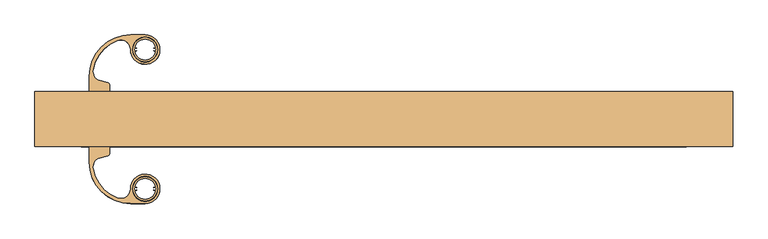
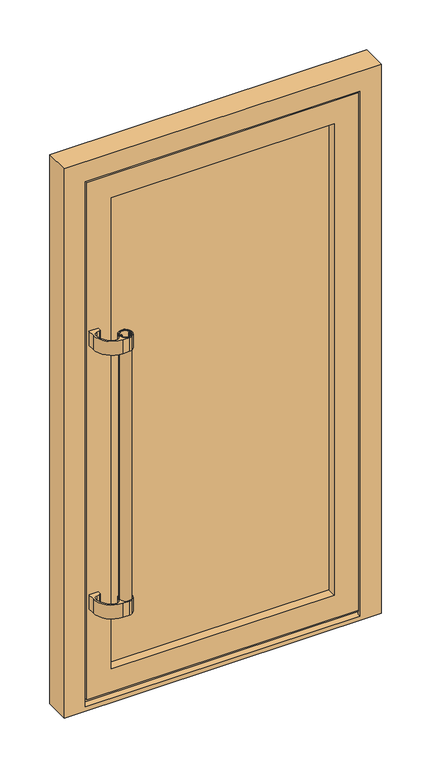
"""IFC4 building model written with IfcOpenShell, lengths in millimetres: door geometry, Jednokrilna vrata_ : Jednokrilna vrata_."""

from ifc_helpers import new_model, si_unit, point, frame, frame_2d, origin, place, context, project, spatial, polyline, circle_curve, trimmed, segment, composite_curve, outline, extrude, faceted_brep, source, transform, mapped, element, save
from ifc_brep_helpers import plane_surface, cylinder_surface, advanced_brep


def door_d72a60e1(model_context):
    return source(origin(), model_context, "Body", "SolidModel", [
        extrude(outline(composite_curve([segment(trimmed(circle_curve(frame_2d((-369.3582857, -90.4505492)), 19.0), [point((-388.3582857, -90.4505492))], [point((-350.3582857, -90.4505492))], False, "CARTESIAN"), True, "CONTINUOUS"), segment(trimmed(circle_curve(frame_2d((-369.3582857, -90.4505492)), 19.0), [point((-350.3582857, -90.4505492))], [point((-388.3582857, -90.4505492))], False, "CARTESIAN"), True, "CONTINUOUS")], self_intersect=False), holes=[composite_curve([segment(polyline([(-382.7222702, -91.5465647), (-381.575669, -91.5465647), (-381.575669, -92.517714)]), True, "CONTINUOUS"), segment(trimmed(circle_curve(frame_2d((-383.8182857, -90.4505492)), 3.05), [point((-381.575669, -92.517714))], [point((-383.8182857, -93.5005492))], False, "CARTESIAN"), True, "CONTINUOUS"), segment(polyline([(-383.8182857, -93.5005492), (-385.0648926, -93.5005492)]), True, "CONTINUOUS"), segment(trimmed(circle_curve(frame_2d((-369.3582857, -90.4505492)), 16.0), [point((-385.0648926, -93.5005492))], [point((-353.6516789, -93.5005492))], True, "CARTESIAN"), True, "CONTINUOUS"), segment(polyline([(-353.6516789, -93.5005492), (-354.8582857, -93.5005492)]), True, "CONTINUOUS"), segment(trimmed(circle_curve(frame_2d((-354.8582857, -90.4505492)), 3.05), [point((-354.8582857, -93.5005492))], [point((-357.1009025, -92.517714))], False, "CARTESIAN"), True, "CONTINUOUS"), segment(polyline([(-357.1009025, -92.517714), (-357.1009025, -91.5465647), (-355.9543013, -91.5465647)]), True, "CONTINUOUS"), segment(trimmed(circle_curve(frame_2d((-354.8582857, -90.4505492)), 1.55), [point((-355.9543013, -91.5465647))], [point((-355.9543013, -89.3545337))], True, "CARTESIAN"), True, "CONTINUOUS"), segment(polyline([(-355.9543013, -89.3545337), (-357.1009025, -89.3545337), (-357.1009025, -88.3833845)]), True, "CONTINUOUS"), segment(trimmed(circle_curve(frame_2d((-354.8582857, -90.4505492)), 3.05), [point((-357.1009025, -88.3833845))], [point((-354.8582857, -87.4005492))], False, "CARTESIAN"), True, "CONTINUOUS"), segment(polyline([(-354.8582857, -87.4005492), (-353.6516789, -87.4005492)]), True, "CONTINUOUS"), segment(trimmed(circle_curve(frame_2d((-369.3582857, -90.4505492)), 16.0), [point((-353.6516789, -87.4005492))], [point((-385.0648926, -87.4005492))], True, "CARTESIAN"), True, "CONTINUOUS"), segment(polyline([(-385.0648926, -87.4005492), (-383.8182857, -87.4005492)]), True, "CONTINUOUS"), segment(trimmed(circle_curve(frame_2d((-383.8182857, -90.4505492)), 3.05), [point((-383.8182857, -87.4005492))], [point((-381.575669, -88.3833845))], False, "CARTESIAN"), True, "CONTINUOUS"), segment(polyline([(-381.575669, -88.3833845), (-381.575669, -89.3545337), (-382.7222702, -89.3545337)]), True, "CONTINUOUS"), segment(trimmed(circle_curve(frame_2d((-383.8182857, -90.4505492)), 1.55), [point((-382.7222702, -89.3545337))], [point((-382.7222702, -91.5465647))], True, "CARTESIAN"), True, "CONTINUOUS")], self_intersect=False)]), frame((0.0, 0.0, 375.6), z_axis=(0.0, 0.0, 1.0), x_axis=(1.0, 0.0, 0.0)), (0.0, 0.0, 1.0), 1000.0),
        extrude(outline(composite_curve([segment(polyline([(-450.9051629, -25.002787), (-423.9051629, -25.002787), (-423.9051629, -34.3047158)]), True, "CONTINUOUS"), segment(trimmed(circle_curve(frame_2d((-428.9051629, -34.3047158)), 5.0), [point((-423.9051629, -34.3047158))], [point((-427.6110676, -39.134345))], False, "CARTESIAN"), True, "CONTINUOUS"), segment(polyline([(-427.6110676, -39.134345), (-439.1414148, -42.2238922)]), True, "CONTINUOUS"), segment(trimmed(circle_curve(frame_2d((-435.2581416, -56.7164654)), 15.0038159), [point((-439.1414148, -42.2238922))], [point((-449.9730088, -59.6468531))], True, "CARTESIAN"), True, "CONTINUOUS"), segment(trimmed(circle_curve(frame_2d((-391.9775002, -49.2612474)), 58.9180773), [point((-449.9730088, -59.6468531))], [point((-412.2761396, -104.5722325))], True, "CARTESIAN"), True, "CONTINUOUS"), segment(trimmed(circle_curve(frame_2d((-407.1082774, -90.4905228)), 15.0000449), [point((-412.2761396, -104.5722325))], [point((-392.1082857, -90.4505492))], True, "CARTESIAN"), True, "CONTINUOUS"), segment(trimmed(circle_curve(frame_2d((-369.4766531, -90.390238)), 22.631713), [point((-392.1082857, -90.4505492))], [point((-382.7304002, -72.0454126))], False, "CARTESIAN"), True, "CONTINUOUS"), segment(trimmed(circle_curve(frame_2d((-369.3633443, -90.5470715)), 22.8251959), [point((-382.7304002, -72.0454126))], [point((-354.1355644, -73.5440044))], False, "CARTESIAN"), True, "CONTINUOUS"), segment(trimmed(circle_curve(frame_2d((-369.2805485, -90.4546232)), 22.7010919), [point((-354.1355644, -73.5440044))], [point((-355.9861713, -108.8556858))], False, "CARTESIAN"), True, "CONTINUOUS"), segment(trimmed(circle_curve(frame_2d((-369.4224302, -90.2582415)), 22.9433648), [point((-355.9861713, -108.8556858))], [point((-369.003985, -113.1977902))], False, "CARTESIAN"), True, "CONTINUOUS"), segment(polyline([(-369.003985, -113.1977902), (-391.9079219, -113.1977902)]), True, "CONTINUOUS"), segment(trimmed(circle_curve(frame_2d((-391.9079219, -49.2005492)), 63.997241), [point((-391.9079219, -113.1977902))], [point((-455.9051629, -49.2005492))], False, "CARTESIAN"), True, "CONTINUOUS"), segment(polyline([(-455.9051629, -49.2005492), (-455.9051629, -25.002787), (-450.9051629, -25.002787)]), True, "CONTINUOUS")], self_intersect=False), holes=[composite_curve([segment(trimmed(circle_curve(frame_2d((-369.3582857, -90.4505492)), 19.25), [point((-388.6082857, -90.4505492))], [point((-350.1082857, -90.4505492))], True, "CARTESIAN"), True, "CONTINUOUS"), segment(trimmed(circle_curve(frame_2d((-369.3582857, -90.4505492)), 19.25), [point((-350.1082857, -90.4505492))], [point((-388.6082857, -90.4505492))], True, "CARTESIAN"), True, "CONTINUOUS")], self_intersect=False)]), frame((0.0, 0.0, 1325.6), z_axis=(0.0, 0.0, 1.0), x_axis=(1.0, 0.0, 0.0)), (0.0, 0.0, 1.0), 50.0),
        extrude(outline(composite_curve([segment(polyline([(-450.9051629, -25.002787), (-423.9051629, -25.002787), (-423.9051629, -34.3047158)]), True, "CONTINUOUS"), segment(trimmed(circle_curve(frame_2d((-428.9051629, -34.3047158)), 5.0), [point((-423.9051629, -34.3047158))], [point((-427.6110676, -39.134345))], False, "CARTESIAN"), True, "CONTINUOUS"), segment(polyline([(-427.6110676, -39.134345), (-439.1414148, -42.2238922)]), True, "CONTINUOUS"), segment(trimmed(circle_curve(frame_2d((-435.2581416, -56.7164654)), 15.0038159), [point((-439.1414148, -42.2238922))], [point((-449.9730088, -59.6468531))], True, "CARTESIAN"), True, "CONTINUOUS"), segment(trimmed(circle_curve(frame_2d((-391.9775002, -49.2612474)), 58.9180773), [point((-449.9730088, -59.6468531))], [point((-412.2761396, -104.5722325))], True, "CARTESIAN"), True, "CONTINUOUS"), segment(trimmed(circle_curve(frame_2d((-407.1082774, -90.4905228)), 15.0000449), [point((-412.2761396, -104.5722325))], [point((-392.1082857, -90.4505492))], True, "CARTESIAN"), True, "CONTINUOUS"), segment(trimmed(circle_curve(frame_2d((-369.4766531, -90.390238)), 22.631713), [point((-392.1082857, -90.4505492))], [point((-382.7304002, -72.0454126))], False, "CARTESIAN"), True, "CONTINUOUS"), segment(trimmed(circle_curve(frame_2d((-369.3633443, -90.5470715)), 22.8251959), [point((-382.7304002, -72.0454126))], [point((-354.1355644, -73.5440044))], False, "CARTESIAN"), True, "CONTINUOUS"), segment(trimmed(circle_curve(frame_2d((-369.2805485, -90.4546232)), 22.7010919), [point((-354.1355644, -73.5440044))], [point((-355.9861713, -108.8556858))], False, "CARTESIAN"), True, "CONTINUOUS"), segment(trimmed(circle_curve(frame_2d((-369.4224302, -90.2582415)), 22.9433648), [point((-355.9861713, -108.8556858))], [point((-369.003985, -113.1977902))], False, "CARTESIAN"), True, "CONTINUOUS"), segment(polyline([(-369.003985, -113.1977902), (-391.9079219, -113.1977902)]), True, "CONTINUOUS"), segment(trimmed(circle_curve(frame_2d((-391.9079219, -49.2005492)), 63.997241), [point((-391.9079219, -113.1977902))], [point((-455.9051629, -49.2005492))], False, "CARTESIAN"), True, "CONTINUOUS"), segment(polyline([(-455.9051629, -49.2005492), (-455.9051629, -25.002787), (-450.9051629, -25.002787)]), True, "CONTINUOUS")], self_intersect=False), holes=[composite_curve([segment(trimmed(circle_curve(frame_2d((-369.3582857, -90.4505492)), 19.25), [point((-388.6082857, -90.4505492))], [point((-350.1082857, -90.4505492))], True, "CARTESIAN"), True, "CONTINUOUS"), segment(trimmed(circle_curve(frame_2d((-369.3582857, -90.4505492)), 19.25), [point((-350.1082857, -90.4505492))], [point((-388.6082857, -90.4505492))], True, "CARTESIAN"), True, "CONTINUOUS")], self_intersect=False)]), frame((0.0, 0.0, 375.6), z_axis=(0.0, 0.0, 1.0), x_axis=(1.0, 0.0, 0.0)), (0.0, 0.0, 1.0), 50.0),
        extrude(outline(composite_curve([segment(trimmed(circle_curve(frame_2d((-369.3582857, 125.4475384)), 19.0), [point((-388.3582857, 125.4475384))], [point((-350.3582857, 125.4475384))], False, "CARTESIAN"), True, "CONTINUOUS"), segment(trimmed(circle_curve(frame_2d((-369.3582857, 125.4475384)), 19.0), [point((-350.3582857, 125.4475384))], [point((-388.3582857, 125.4475384))], False, "CARTESIAN"), True, "CONTINUOUS")], self_intersect=False), holes=[composite_curve([segment(trimmed(circle_curve(frame_2d((-383.8182857, 125.4475384)), 1.55), [point((-382.7222702, 126.5435539))], [point((-382.7222702, 124.3515229))], True, "CARTESIAN"), True, "CONTINUOUS"), segment(polyline([(-382.7222702, 124.3515229), (-381.575669, 124.3515229), (-381.575669, 123.3803736)]), True, "CONTINUOUS"), segment(trimmed(circle_curve(frame_2d((-383.8182857, 125.4475384)), 3.05), [point((-381.575669, 123.3803736))], [point((-383.8182857, 122.3975384))], False, "CARTESIAN"), True, "CONTINUOUS"), segment(polyline([(-383.8182857, 122.3975384), (-385.0648926, 122.3975384)]), True, "CONTINUOUS"), segment(trimmed(circle_curve(frame_2d((-369.3582857, 125.4475384)), 16.0), [point((-385.0648926, 122.3975384))], [point((-353.6516789, 122.3975384))], True, "CARTESIAN"), True, "CONTINUOUS"), segment(polyline([(-353.6516789, 122.3975384), (-354.8582857, 122.3975384)]), True, "CONTINUOUS"), segment(trimmed(circle_curve(frame_2d((-354.8582857, 125.4475384)), 3.05), [point((-354.8582857, 122.3975384))], [point((-357.1009025, 123.3803736))], False, "CARTESIAN"), True, "CONTINUOUS"), segment(polyline([(-357.1009025, 123.3803736), (-357.1009025, 124.3515229), (-355.9543013, 124.3515229)]), True, "CONTINUOUS"), segment(trimmed(circle_curve(frame_2d((-354.8582857, 125.4475384)), 1.55), [point((-355.9543013, 124.3515229))], [point((-355.9543013, 126.5435539))], True, "CARTESIAN"), True, "CONTINUOUS"), segment(polyline([(-355.9543013, 126.5435539), (-357.1009025, 126.5435539), (-357.1009025, 127.5147031)]), True, "CONTINUOUS"), segment(trimmed(circle_curve(frame_2d((-354.8582857, 125.4475384)), 3.05), [point((-357.1009025, 127.5147031))], [point((-354.8582857, 128.4975384))], False, "CARTESIAN"), True, "CONTINUOUS"), segment(polyline([(-354.8582857, 128.4975384), (-353.6516789, 128.4975384)]), True, "CONTINUOUS"), segment(trimmed(circle_curve(frame_2d((-369.3582857, 125.4475384)), 16.0), [point((-353.6516789, 128.4975384))], [point((-385.0648926, 128.4975384))], True, "CARTESIAN"), True, "CONTINUOUS"), segment(polyline([(-385.0648926, 128.4975384), (-383.8182857, 128.4975384)]), True, "CONTINUOUS"), segment(trimmed(circle_curve(frame_2d((-383.8182857, 125.4475384)), 3.05), [point((-383.8182857, 128.4975384))], [point((-381.575669, 127.5147031))], False, "CARTESIAN"), True, "CONTINUOUS"), segment(polyline([(-381.575669, 127.5147031), (-381.575669, 126.5435539), (-382.7222702, 126.5435539)]), True, "CONTINUOUS")], self_intersect=False)]), frame((0.0, 0.0, 375.6), z_axis=(0.0, 0.0, 1.0), x_axis=(1.0, 0.0, 0.0)), (0.0, 0.0, 1.0), 1000.0),
        extrude(outline(composite_curve([segment(polyline([(-450.9051629, 59.9997761), (-455.9051629, 59.9997761), (-455.9051629, 84.1975384)]), True, "CONTINUOUS"), segment(trimmed(circle_curve(frame_2d((-391.9079219, 84.1975384)), 63.997241), [point((-455.9051629, 84.1975384))], [point((-391.9079219, 148.1947793))], False, "CARTESIAN"), True, "CONTINUOUS"), segment(polyline([(-391.9079219, 148.1947793), (-369.003985, 148.1947793)]), True, "CONTINUOUS"), segment(trimmed(circle_curve(frame_2d((-369.4224302, 125.2552307)), 22.9433648), [point((-369.003985, 148.1947793))], [point((-355.9861713, 143.852675))], False, "CARTESIAN"), True, "CONTINUOUS"), segment(trimmed(circle_curve(frame_2d((-369.2805485, 125.4516124)), 22.7010919), [point((-355.9861713, 143.852675))], [point((-354.1355644, 108.5409936))], False, "CARTESIAN"), True, "CONTINUOUS"), segment(trimmed(circle_curve(frame_2d((-369.3633443, 125.5440606)), 22.8251959), [point((-354.1355644, 108.5409936))], [point((-382.7304002, 107.0424017))], False, "CARTESIAN"), True, "CONTINUOUS"), segment(trimmed(circle_curve(frame_2d((-369.4766531, 125.3872272)), 22.631713), [point((-382.7304002, 107.0424017))], [point((-392.1082857, 125.4475384))], False, "CARTESIAN"), True, "CONTINUOUS"), segment(trimmed(circle_curve(frame_2d((-407.1082774, 125.4875119)), 15.0000449), [point((-392.1082857, 125.4475384))], [point((-412.2761396, 139.5692216))], True, "CARTESIAN"), True, "CONTINUOUS"), segment(trimmed(circle_curve(frame_2d((-391.9775002, 84.2582366)), 58.9180773), [point((-412.2761396, 139.5692216))], [point((-449.9730088, 94.6438423))], True, "CARTESIAN"), True, "CONTINUOUS"), segment(trimmed(circle_curve(frame_2d((-435.2581416, 91.7134546)), 15.0038159), [point((-449.9730088, 94.6438423))], [point((-439.1414148, 77.2208813))], True, "CARTESIAN"), True, "CONTINUOUS"), segment(polyline([(-439.1414148, 77.2208813), (-427.6110676, 74.1313341)]), True, "CONTINUOUS"), segment(trimmed(circle_curve(frame_2d((-428.9051629, 69.301705)), 5.0), [point((-427.6110676, 74.1313341))], [point((-423.9051629, 69.301705))], False, "CARTESIAN"), True, "CONTINUOUS"), segment(polyline([(-423.9051629, 69.301705), (-423.9051629, 59.9997761), (-450.9051629, 59.9997761)]), True, "CONTINUOUS")], self_intersect=False), holes=[composite_curve([segment(trimmed(circle_curve(frame_2d((-369.3582857, 125.4475384)), 19.25), [point((-388.6082857, 125.4475384))], [point((-350.1082857, 125.4475384))], True, "CARTESIAN"), True, "CONTINUOUS"), segment(trimmed(circle_curve(frame_2d((-369.3582857, 125.4475384)), 19.25), [point((-350.1082857, 125.4475384))], [point((-388.6082857, 125.4475384))], True, "CARTESIAN"), True, "CONTINUOUS")], self_intersect=False)]), frame((0.0, 0.0, 1325.6), z_axis=(0.0, 0.0, 1.0), x_axis=(1.0, 0.0, 0.0)), (0.0, 0.0, 1.0), 50.0),
        extrude(outline(composite_curve([segment(polyline([(-450.9051629, 59.9997761), (-455.9051629, 59.9997761), (-455.9051629, 84.1975384)]), True, "CONTINUOUS"), segment(trimmed(circle_curve(frame_2d((-391.9079219, 84.1975384)), 63.997241), [point((-455.9051629, 84.1975384))], [point((-391.9079219, 148.1947793))], False, "CARTESIAN"), True, "CONTINUOUS"), segment(polyline([(-391.9079219, 148.1947793), (-369.003985, 148.1947793)]), True, "CONTINUOUS"), segment(trimmed(circle_curve(frame_2d((-369.4224302, 125.2552307)), 22.9433648), [point((-369.003985, 148.1947793))], [point((-355.9861713, 143.852675))], False, "CARTESIAN"), True, "CONTINUOUS"), segment(trimmed(circle_curve(frame_2d((-369.2805485, 125.4516124)), 22.7010919), [point((-355.9861713, 143.852675))], [point((-354.1355644, 108.5409936))], False, "CARTESIAN"), True, "CONTINUOUS"), segment(trimmed(circle_curve(frame_2d((-369.3633443, 125.5440606)), 22.8251959), [point((-354.1355644, 108.5409936))], [point((-382.7304002, 107.0424017))], False, "CARTESIAN"), True, "CONTINUOUS"), segment(trimmed(circle_curve(frame_2d((-369.4766531, 125.3872272)), 22.631713), [point((-382.7304002, 107.0424017))], [point((-392.1082857, 125.4475384))], False, "CARTESIAN"), True, "CONTINUOUS"), segment(trimmed(circle_curve(frame_2d((-407.1082774, 125.4875119)), 15.0000449), [point((-392.1082857, 125.4475384))], [point((-412.2761396, 139.5692216))], True, "CARTESIAN"), True, "CONTINUOUS"), segment(trimmed(circle_curve(frame_2d((-391.9775002, 84.2582366)), 58.9180773), [point((-412.2761396, 139.5692216))], [point((-449.9730088, 94.6438423))], True, "CARTESIAN"), True, "CONTINUOUS"), segment(trimmed(circle_curve(frame_2d((-435.2581416, 91.7134546)), 15.0038159), [point((-449.9730088, 94.6438423))], [point((-439.1414148, 77.2208813))], True, "CARTESIAN"), True, "CONTINUOUS"), segment(polyline([(-439.1414148, 77.2208813), (-427.6110676, 74.1313341)]), True, "CONTINUOUS"), segment(trimmed(circle_curve(frame_2d((-428.9051629, 69.301705)), 5.0), [point((-427.6110676, 74.1313341))], [point((-423.9051629, 69.301705))], False, "CARTESIAN"), True, "CONTINUOUS"), segment(polyline([(-423.9051629, 69.301705), (-423.9051629, 59.9997761), (-450.9051629, 59.9997761)]), True, "CONTINUOUS")], self_intersect=False), holes=[composite_curve([segment(trimmed(circle_curve(frame_2d((-369.3582857, 125.4475384)), 19.25), [point((-388.6082857, 125.4475384))], [point((-350.1082857, 125.4475384))], True, "CARTESIAN"), True, "CONTINUOUS"), segment(trimmed(circle_curve(frame_2d((-369.3582857, 125.4475384)), 19.25), [point((-350.1082857, 125.4475384))], [point((-388.6082857, 125.4475384))], True, "CARTESIAN"), True, "CONTINUOUS")], self_intersect=False)]), frame((0.0, 0.0, 375.6), z_axis=(0.0, 0.0, 1.0), x_axis=(1.0, 0.0, 0.0)), (0.0, 0.0, 1.0), 50.0),
        extrude(outline(polyline([(-395.0103426, 50.5039517), (395.0103426, 50.5039517), (395.0103426, 6.5039517), (-395.0103426, 6.5039517), (-395.0103426, 50.5039517)])), frame((0.0, 0.0, 116.9896574), z_axis=(0.0, 0.0, 1.0), x_axis=(1.0, 0.0, 0.0)), (0.0, 0.0, 1.0), 1728.0206852),
        faceted_brep([(380.0077577, 59.9997761, 1830.0077577), (380.0077577, 59.9997761, 131.9922423), (380.0077577, 50.5039517, 131.9922423), (380.0077577, 50.5039517, 1830.0077577), (492.0034819, 59.9997761, 19.9965181), (-492.0034819, 59.9997761, 19.9965181), (-492.0034819, 59.9997761, 1942.0034819), (492.0034819, 59.9997761, 1942.0034819), (-380.0077577, 59.9997761, 1830.0077577), (-380.0077577, 59.9997761, 131.9922423), (-380.0077577, 50.5039517, 131.9922423), (395.0103426, 50.5039517, 1845.0103426), (-395.0103426, 50.5039517, 1845.0103426), (-395.0103426, 50.5039517, 116.9896574), (395.0103426, 50.5039517, 116.9896574), (-380.0077577, 50.5039517, 1830.0077577), (395.0103426, 6.5039517, 1845.0103426), (395.0103426, 6.5039517, 116.9896574), (-395.0103426, 6.5039517, 116.9896574), (-395.0103426, 6.5039517, 1845.0103426), (380.0079287, 6.5039517, 1830.0079287), (-380.0079287, 6.5039517, 1830.0079287), (-380.0079287, 6.5039517, 131.9920713), (380.0079287, 6.5039517, 131.9920713), (380.0079287, -25.002787, 1830.0079287), (380.0079287, -25.002787, 131.9920713), (-380.0079287, -25.002787, 131.9920713), (463.0095093, -25.002787, 1913.0095093), (-463.0095093, -25.002787, 1913.0095093), (-463.0095093, -25.002787, 48.9904907), (463.0095093, -25.002787, 48.9904907), (-380.0079287, -25.002787, 1830.0079287), (463.0095093, -16.502703, 1913.0095093), (463.0095093, -16.502703, 48.9904907), (-463.0095093, -16.502703, 48.9904907), (474.406518, -16.502703, 1924.406518), (-474.406518, -16.502703, 1924.406518), (-474.406518, -16.502703, 37.593482), (474.406518, -16.502703, 37.593482), (-463.0095093, -16.502703, 1913.0095093), (474.406518, 51.4890131, 1924.406518), (474.406518, 51.4890131, 37.593482), (-474.406518, 51.4890131, 37.593482), (492.0034819, 51.4890131, 1942.0034819), (-492.0034819, 51.4890131, 1942.0034819), (-492.0034819, 51.4890131, 19.9965181), (492.0034819, 51.4890131, 19.9965181), (-474.406518, 51.4890131, 1924.406518)], [[[0, 1, 2, 3]], [[4, 5, 6, 7], [0, 8, 9, 1]], [[2, 1, 9, 10]], [[11, 12, 13, 14], [2, 10, 15, 3]], [[16, 11, 14, 17]], [[17, 14, 13, 18]], [[17, 18, 19, 16], [20, 21, 22, 23]], [[24, 20, 23, 25]], [[25, 23, 22, 26]], [[27, 28, 29, 30], [25, 26, 31, 24]], [[32, 27, 30, 33]], [[33, 30, 29, 34]], [[35, 36, 37, 38], [33, 34, 39, 32]], [[40, 35, 38, 41]], [[41, 38, 37, 42]], [[43, 44, 45, 46], [41, 42, 47, 40]], [[7, 43, 46, 4]], [[4, 46, 45, 5]], [[10, 9, 8, 15]], [[18, 13, 12, 19]], [[26, 22, 21, 31]], [[34, 29, 28, 39]], [[42, 37, 36, 47]], [[5, 45, 44, 6]], [[15, 8, 0, 3]], [[19, 12, 11, 16]], [[31, 21, 20, 24]], [[39, 28, 27, 32]], [[47, 36, 35, 40]], [[6, 44, 43, 7]]]),
        advanced_brep(
        [(-540.0, 59.9997761, 10.0), (-497.0034819, 59.9997761, 10.0), (-497.0034819, 51.495562, 10.0), (497.0034819, 51.495562, 10.0), (497.0034819, 59.9997761, 10.0), (540.0, 59.9997761, 10.0), (540.0, -25.0, 10.0), (-540.0, -25.0, 10.0), (-540.0, 59.9997761, 1990.0), (540.0, 59.9997761, 1990.0), (497.0034819, 59.9997761, 1947.0034819), (-497.0034819, 59.9997761, 1947.0034819), (-497.0034819, 51.495562, 1947.0034819), (497.0034819, 51.495562, 1947.0034819), (-481.5093839, 51.495562, 1931.5093839), (-481.5093839, 51.495562, 25.5020089), (481.5093839, 51.495562, 25.5020089), (481.5093839, 51.495562, 1931.5093839), (540.0, -25.0, 1990.0), (-540.0, -25.0, 1990.0), (468.009384, -25.0, 1918.009384), (468.009384, -25.0, 25.5020089), (-468.009384, -25.0, 25.5020089), (-468.009384, -25.0, 1918.009384), (-468.009384, -16.4961541, 1918.009384), (-468.009384, -16.4961541, 25.5020089), (468.009384, -16.4961541, 25.5020089), (481.5093839, -16.4961541, 25.5020089), (481.5093839, 2.5534255, 25.5020089), (-481.5093839, 2.5534255, 25.5020089), (-481.5093839, -16.4961541, 25.5020089), (-481.5093839, -16.4961541, 1931.5093839), (481.5093839, -16.4961541, 1931.5093839), (468.009384, -16.4961541, 1918.009384), (481.5093839, 34.7185189, 25.5020089), (481.5093839, 23.2837038, 29.7334181), (481.5093839, 12.6811663, 29.5820648), (-481.5093839, 12.6811663, 29.5820648), (-481.5093839, 23.2837038, 29.7334181), (-481.5093839, 34.7185189, 25.5020089)],
        [
            (0, 1),
            (1, 2),
            (2, 3),
            (3, 4),
            (4, 5),
            (5, 6),
            (6, 7),
            (7, 0),
            (0, 8),
            (8, 9),
            (9, 5),
            (4, 10),
            (10, 11),
            (11, 1),
            (12, 2),
            (11, 12),
            (12, 13),
            (13, 3),
            (14, 15),
            (15, 16),
            (16, 17),
            (17, 14),
            (13, 10),
            (18, 6),
            (9, 18),
            (18, 19),
            (19, 7),
            (20, 21),
            (21, 22),
            (22, 23),
            (23, 20),
            (19, 8),
            (24, 23),
            (22, 25),
            (25, 24),
            (21, 26),
            (26, 27),
            (27, 28),
            (28, 29),
            (29, 30),
            (30, 25),
            (31, 32),
            (32, 27),
            (26, 33),
            (33, 24),
            (30, 31),
            (32, 17),
            (16, 34),
            (34, 35),
            (35, 36, circle_curve(frame((481.5093839, 18.1783048, 15.936763), z_axis=(1.0, 0.0, 0.0), x_axis=(0.0, -0.3736760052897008, 0.9275592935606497)), 14.7109752)),
            (36, 28),
            (20, 33),
            (14, 31),
            (29, 37),
            (37, 38, circle_curve(frame((-481.5093839, 18.1783048, 15.936763), z_axis=(-1.0, 0.0, 0.0), x_axis=(0.0, -0.3736760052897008, 0.9275592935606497)), 14.7109752)),
            (38, 39),
            (39, 15),
            (39, 34),
            (37, 36),
            (35, 38),
        ],
        [
            plane_surface(frame((-540.0, -25.0, 10.0), z_axis=(0.0, 0.0, -1.0), x_axis=(0.0, -1.0, 0.0))),
            plane_surface(frame((-540.0, 59.9997761, 10.0), z_axis=(0.0, 1.0, 0.0), x_axis=(0.0, 0.0, 1.0))),
            plane_surface(frame((-497.0034819, 59.9997761, 10.0), z_axis=(1.0, 0.0, 0.0), x_axis=(0.0, 0.0, 1.0))),
            plane_surface(frame((-497.0034819, 51.495562, 10.0), z_axis=(0.0, 1.0, 0.0), x_axis=(0.0, 0.0, 1.0))),
            plane_surface(frame((497.0034819, 59.9997761, 1947.0034819), z_axis=(-1.0, 0.0, 0.0), x_axis=(0.0, 0.0, -1.0))),
            plane_surface(frame((540.0, -25.0, 1990.0), z_axis=(1.0, 0.0, 0.0), x_axis=(0.0, 0.0, -1.0))),
            plane_surface(frame((-468.009384, -25.0, 10.0), z_axis=(0.0, -1.0, 0.0), x_axis=(0.0, 0.0, 1.0))),
            plane_surface(frame((-540.0, -25.0, 10.0), z_axis=(-1.0, 0.0, 0.0), x_axis=(0.0, 0.0, 1.0))),
            plane_surface(frame((-468.009384, -16.4961541, 10.0), z_axis=(1.0, 0.0, 0.0), x_axis=(0.0, 0.0, 1.0))),
            plane_surface(frame((-540.0, -25.0, 25.5020089), z_axis=(0.0, 0.0, 1.0), x_axis=(1.0, 0.0, 0.0))),
            plane_surface(frame((-481.5093839, -16.4961541, 10.0), z_axis=(0.0, 1.0, 0.0), x_axis=(0.0, 0.0, 1.0))),
            plane_surface(frame((481.5093839, -15.4000275, 1931.5093839), z_axis=(-1.0, 0.0, 0.0), x_axis=(0.0, 0.0, -1.0))),
            plane_surface(frame((468.009384, -16.4961541, 1918.009384), z_axis=(-1.0, 0.0, 0.0), x_axis=(0.0, 0.0, -1.0))),
            plane_surface(frame((-481.5093839, -15.4000275, 10.0), z_axis=(1.0, 0.0, 0.0), x_axis=(0.0, 0.0, 1.0))),
            plane_surface(frame((-540.0, 34.7185189, 25.5020089), z_axis=(0.0, 0.0, 1.0), x_axis=(1.0, 0.0, 0.0))),
            cylinder_surface(frame((-540.0, 18.1783048, 15.936763), z_axis=(-1.0, 0.0, 0.0), x_axis=(0.0, -0.3736760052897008, 0.9275592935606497)), 14.7109752),
            plane_surface(frame((-540.0, 2.5534255, 25.5020089), z_axis=(0.0, -0.3736760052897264, 0.9275592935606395), x_axis=(1.0, 0.0, 0.0))),
            plane_surface(frame((-540.0, 23.2837038, 29.7334181), z_axis=(0.0, 0.347046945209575, 0.9378477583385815), x_axis=(1.0, 0.0, 0.0))),
            plane_surface(frame((-468.009384, -16.4961541, 1918.009384), z_axis=(0.0, 0.0, -1.0), x_axis=(1.0, 0.0, 0.0))),
            plane_surface(frame((-497.0034819, 59.9997761, 1947.0034819), z_axis=(0.0, 0.0, -1.0), x_axis=(1.0, 0.0, 0.0))),
            plane_surface(frame((-540.0, -25.0, 1990.0), z_axis=(0.0, 0.0, 1.0), x_axis=(1.0, 0.0, 0.0))),
            plane_surface(frame((-481.5093839, -15.4000275, 1931.5093839), z_axis=(0.0, 0.0, -1.0), x_axis=(1.0, 0.0, 0.0))),
        ],
        [
            (0, [[1, 2, 3, 4, 5, 6, 7, 8]]),
            (1, [[-1, 9, 10, 11, -5, 12, 13, 14]]),
            (2, [[15, -2, -14, 16]]),
            (3, [[-3, -15, 17, 18], [19, 20, 21, 22]]),
            (4, [[-12, -4, -18, 23]]),
            (5, [[24, -6, -11, 25]]),
            (6, [[-7, -24, 26, 27], [28, 29, 30, 31]]),
            (7, [[-9, -8, -27, 32]]),
            (8, [[33, -30, 34, 35]]),
            (9, [[-29, 36, 37, 38, 39, 40, 41, -34]]),
            (10, [[42, 43, -37, 44, 45, -35, -41, 46]]),
            (11, [[47, -21, 48, 49, 50, 51, -38, -43]]),
            (12, [[52, -44, -36, -28]]),
            (13, [[53, -46, -40, 54, 55, 56, 57, -19]]),
            (14, [[-20, -57, 58, -48]]),
            (15, [[59, -50, 60, -55]]),
            (16, [[-59, -54, -39, -51]]),
            (17, [[-58, -56, -60, -49]]),
            (18, [[-33, -45, -52, -31]]),
            (19, [[-17, -16, -13, -23]]),
            (20, [[-10, -32, -26, -25]]),
            (21, [[-42, -53, -22, -47]]),
        ],
    ),
    ])


if __name__ == "__main__":
    model = new_model("IFC4")
    model_context = context("Model", 3, world=origin())
    ifc_project = project(units=[si_unit("LENGTHUNIT", "METRE", prefix="MILLI")], contexts=[model_context])
    site = spatial("IfcSite", under=ifc_project)
    building = spatial("IfcBuilding", under=site)
    placement = place(None, origin())
    door_shape = door_d72a60e1(model_context)
    element("IfcDoor", 1, ObjectType="Jednokrilna vrata_ : Jednokrilna vrata_", at=placement, inside=building, context=model_context, shape_type="MappedRepresentation", body=[
        mapped(door_shape, transform((0.0, 0.0, 0.0), x_axis=(1.0, 0.0, 0.0), y_axis=(0.0, 1.0, 0.0), z_axis=(0.0, 0.0, 1.0))),
    ])
    save(model, "model.ifc")
